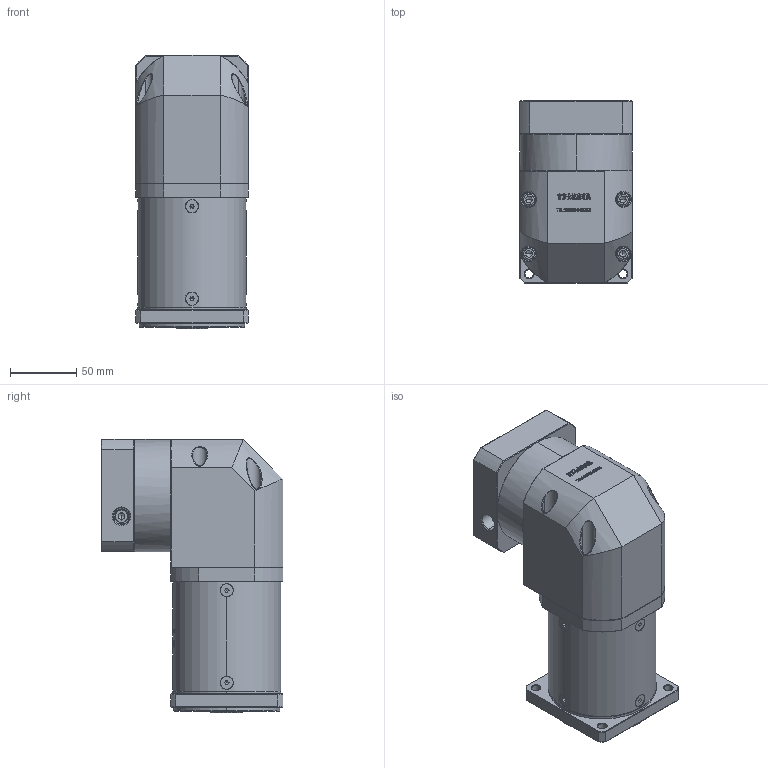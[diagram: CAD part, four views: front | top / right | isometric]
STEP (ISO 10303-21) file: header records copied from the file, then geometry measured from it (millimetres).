
FILE_DESCRIPTION (( 'STEP AP214' ), '1' );
FILE_NAME ('ZFR80-K15-L3-19-70-90-M6.step', '2022-05-08T12:08:53', ( '' ), ( 'Microsoft' ), 'SwSTEP 2.0', 'SolidWorks 2016', '' );
FILE_SCHEMA (( 'AUTOMOTIVE_DESIGN' ));
Length unit declared in the file: millimetre
Products named in the file (1): ZFR80-K15-L3-19-70-90-M6
Bounding box: 85 x 137.6 x 206.5 mm (x, y, z)
Volume: 1444287 mm3; surface area: 143993.6 mm2
Topology: 13 solids, 13 shells, 3010 faces, 7908 edges, 5045 vertices
Faces by surface type: plane 1612, bspline 614, cylinder 416, cone 354, torus 14
Entity records: 158901 total; most frequent: CARTESIAN_POINT 57089, ORIENTED_EDGE 15728, DIRECTION 11859, EDGE_CURVE 7864, VERTEX_POINT 5045, VECTOR 4927, LINE 4927, AXIS2_PLACEMENT_3D 3466
